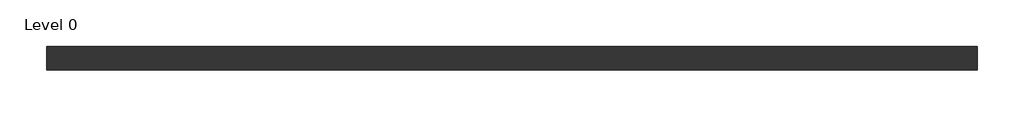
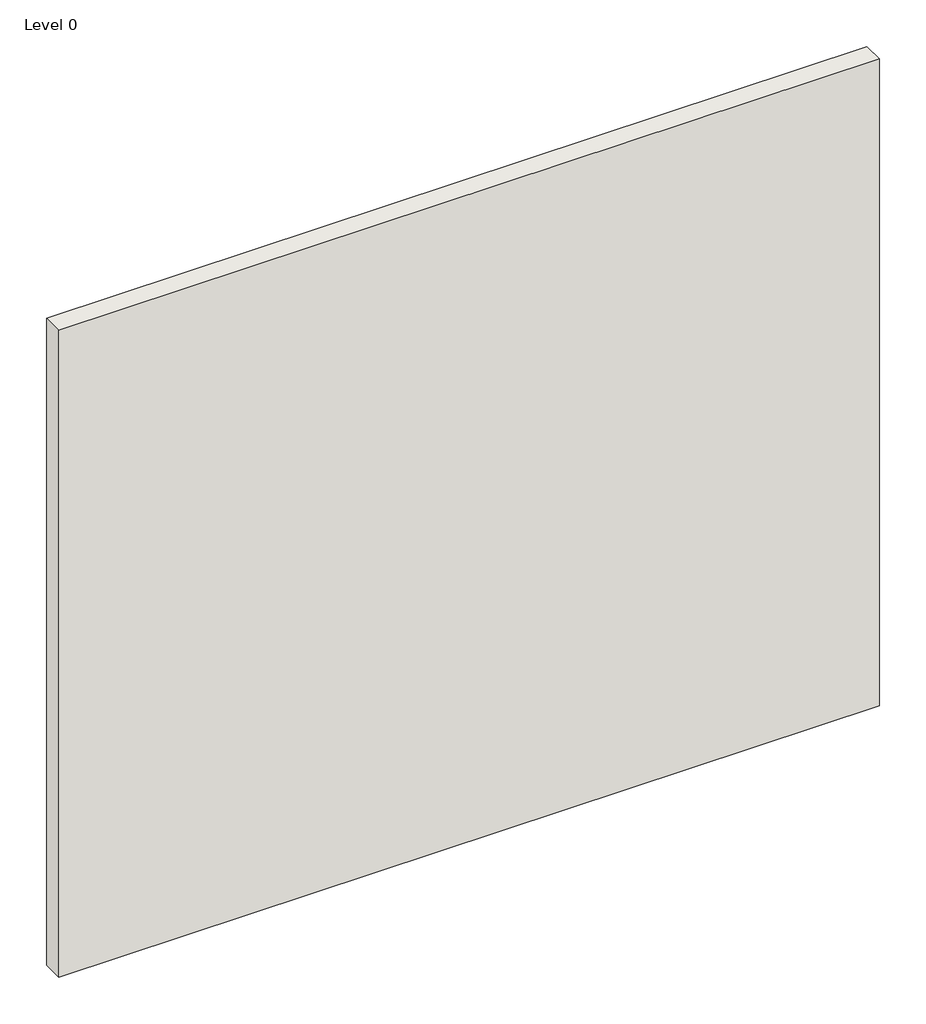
# One storey: 1 wall.
"""IFC4 building model written with IfcOpenShell, lengths in millimetres."""

from ifc_helpers import new_model, si_unit, origin, origin_with_axes, place, context, project, spatial, polyline, outline, extrude, element, save

model = new_model("IFC4")

# Units and contexts
model_context = context("Model", 3, world=origin())
ifc_project = project(units=[si_unit("LENGTHUNIT", "METRE", prefix="MILLI")], contexts=[model_context])

# Site, building, storey
site = spatial("IfcSite", under=ifc_project)
building = spatial("IfcBuilding", under=site)
storey = spatial("IfcBuildingStorey", under=building, Name="Level 0", Elevation=0.0)

# Wall
placement = place(None, origin())
element("IfcWall", 1, ObjectType="A306001 (a) - ShaftWall", at=placement, inside=storey, context=model_context, shape_type="SweptSolid", body=[
    extrude(outline(polyline([(2116.0807354, 555.2205641), (-883.9192646, 555.2205641), (-883.9192646, 632.2205641), (2116.0807354, 632.2205641), (2116.0807354, 555.2205641)])), origin_with_axes(), (0.0, 0.0, 1.0), 2500.0),
])

save(model, "model.ifc")
